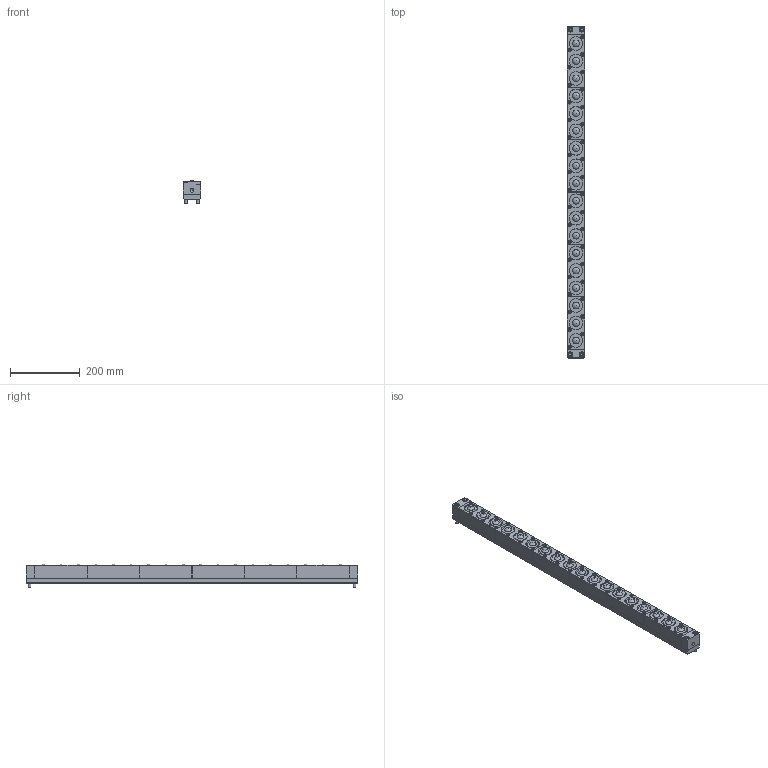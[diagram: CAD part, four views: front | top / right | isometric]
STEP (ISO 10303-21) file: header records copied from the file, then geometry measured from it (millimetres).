
FILE_DESCRIPTION(/* description */ (''),/* implementation_level */ '2;1');
FILE_NAME(/* name */ 'Z:\34-Tei\01-web 3Dデータ\41-ISR-50S型\ISR-50S-950-A.stp',/* time_stamp */ '2015-01-16T09:32:15+09:00',/* author */ ('yamaki'),/* organization */ (''),/* preprocessor_version */ 'ST-DEVELOPER v15.6',/* originating_system */ 'Autodesk Inventor 2015',/* authorisation */ '');
FILE_SCHEMA (('AUTOMOTIVE_DESIGN { 1 0 10303 214 3 1 1 }'));
Length unit declared in the file: millimetre
Products named in the file (5): 4200AT-01-950; 六角穴付きボルト-M8x55; 4200AT-00; 4200AT-03; ISR-50S
Bounding box: 49.5 x 950 x 67 mm (x, y, z)
Volume: 2306814.7 mm3; surface area: 539077.8 mm2
Topology: 27 solids, 27 shells, 872 faces, 1807 edges, 1162 vertices
Faces by surface type: plane 559, cylinder 175, cone 78, torus 42, sphere 18
Full cylindrical faces by diameter (mm): 8 x2, 8.5 x36, 9 x2, 9.5 x36, 10.5 x1, 13 x4, 14.5 x4, 31.7 x18, 38.5 x18, 39 x18, 42 x36
Entity records: 5055 total; most frequent: CARTESIAN_POINT 892, DIRECTION 824, ORIENTED_EDGE 682, EDGE_CURVE 341, AXIS2_PLACEMENT_3D 303, EDGE_LOOP 280, VERTEX_POINT 245, LINE 218
